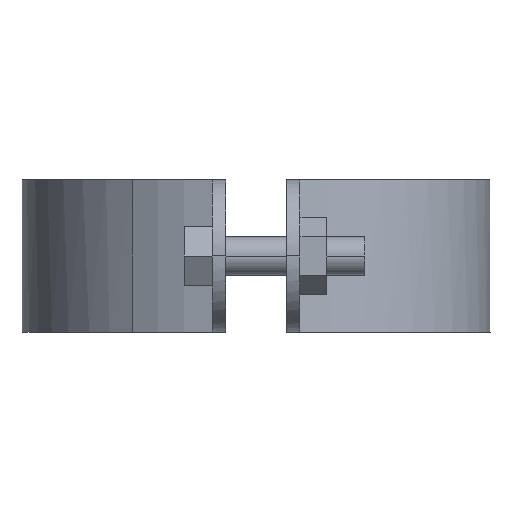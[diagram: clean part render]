
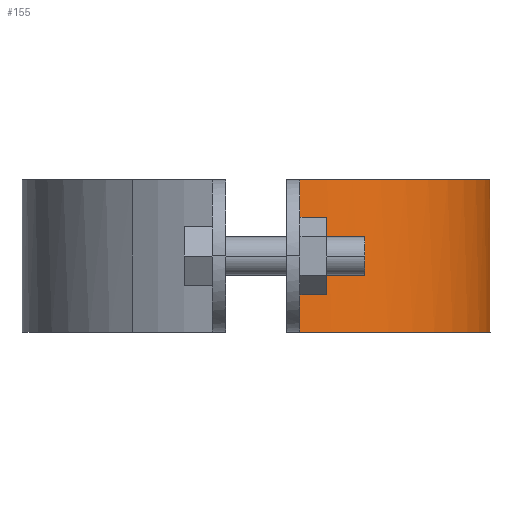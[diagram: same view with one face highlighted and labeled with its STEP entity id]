
A CAD part, left-side view. The second image highlights one B-rep face of the part: STEP entity #155.
In plain terms, the highlighted free-form (B-spline) face has degree [3, 1] with [4, 2] control points.
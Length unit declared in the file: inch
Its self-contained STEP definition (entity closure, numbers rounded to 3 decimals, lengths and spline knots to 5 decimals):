
#155=ADVANCED_FACE('',(#364),#365,.T.);
#364=FACE_OUTER_BOUND('',#662,.T.);
#365=B_SPLINE_SURFACE_WITH_KNOTS('',3,1,((#663,#664),(#665,#666),(#667,#668),(#669,#670)),.UNSPECIFIED.,.F.,.F.,.F.,(4,4),(2,2),(-1.0,-0.0),(0.0,1.25),.UNSPECIFIED.);
#662=EDGE_LOOP('',(#1136,#1137,#1138,#1139));
#663=CARTESIAN_POINT('',(0.53762,1.37333,0.0));
#664=CARTESIAN_POINT('',(0.53762,1.37333,1.25));
#665=CARTESIAN_POINT('',(0.74112,0.32967,0.0));
#666=CARTESIAN_POINT('',(0.74112,0.32967,1.25));
#667=CARTESIAN_POINT('',(1.75214,-0.35143,0.0));
#668=CARTESIAN_POINT('',(1.75214,-0.35143,1.25));
#669=CARTESIAN_POINT('',(2.7958,-0.14794,0.0));
#670=CARTESIAN_POINT('',(2.7958,-0.14794,1.25));
#1136=ORIENTED_EDGE('',*,*,#1873,.T.);
#1137=ORIENTED_EDGE('',*,*,#1874,.T.);
#1138=ORIENTED_EDGE('',*,*,#1875,.T.);
#1139=ORIENTED_EDGE('',*,*,#1876,.F.);
#1873=EDGE_CURVE('',#2205,#2206,#2207,.T.);
#1874=EDGE_CURVE('',#2206,#2208,#2209,.T.);
#1875=EDGE_CURVE('',#2208,#2210,#2211,.T.);
#1876=EDGE_CURVE('',#2205,#2210,#2212,.T.);
#2205=VERTEX_POINT('',#2695);
#2206=VERTEX_POINT('',#2696);
#2207=B_SPLINE_CURVE_WITH_KNOTS('',3,(#2697,#2698,#2699,#2700),.UNSPECIFIED.,.F.,.F.,(4,4),(-1.0,-0.0),.UNSPECIFIED.);
#2208=VERTEX_POINT('',#2701);
#2209=LINE('',#2702,#2703);
#2210=VERTEX_POINT('',#2704);
#2211=B_SPLINE_CURVE_WITH_KNOTS('',3,(#2705,#2706,#2707,#2708),.UNSPECIFIED.,.F.,.F.,(4,4),(0.0,1.0),.UNSPECIFIED.);
#2212=LINE('',#2709,#2710);
#2695=CARTESIAN_POINT('',(0.53762,1.37333,0.00009));
#2696=CARTESIAN_POINT('',(2.7958,-0.14794,0.00009));
#2697=CARTESIAN_POINT('',(0.53762,1.37333,0.00009));
#2698=CARTESIAN_POINT('',(0.74112,0.32967,0.00009));
#2699=CARTESIAN_POINT('',(1.75214,-0.35143,0.00009));
#2700=CARTESIAN_POINT('',(2.7958,-0.14794,0.00009));
#2701=CARTESIAN_POINT('',(2.7958,-0.14794,1.24989));
#2702=CARTESIAN_POINT('',(2.7958,-0.14794,0.0));
#2703=VECTOR('',#3422,1.0);
#2704=CARTESIAN_POINT('',(0.53762,1.37333,1.24989));
#2705=CARTESIAN_POINT('',(2.7958,-0.14794,1.24989));
#2706=CARTESIAN_POINT('',(1.75214,-0.35143,1.24989));
#2707=CARTESIAN_POINT('',(0.74112,0.32967,1.24989));
#2708=CARTESIAN_POINT('',(0.53762,1.37333,1.24989));
#2709=CARTESIAN_POINT('',(0.53762,1.37333,0.0));
#2710=VECTOR('',#3423,1.0);
#3422=DIRECTION('',(0.0,0.0,1.0));
#3423=DIRECTION('',(0.0,0.0,1.0));
